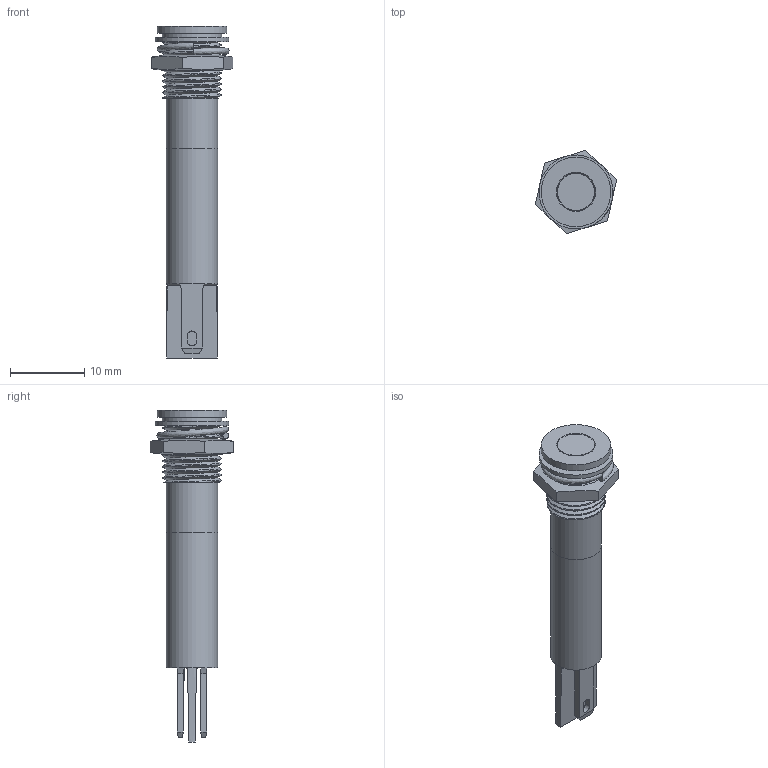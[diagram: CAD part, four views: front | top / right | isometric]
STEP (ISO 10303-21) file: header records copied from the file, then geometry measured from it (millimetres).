
FILE_DESCRIPTION( ( 'Unknown' ), '1' );
FILE_NAME( 'D:/My Documents/Q series 3D files/Q8F1CXXR.stp', 'Unknown', ( 'Unknown' ), ( 'Unknown' ), 'PSStep 15.0.49', 'Unknown', ' ' );
FILE_SCHEMA( ( 'AUTOMOTIVE_DESIGN { 1 0 10303 214 1 1 1 1 }' ) );
Length unit declared in the file: millimetre
Products named in the file (9): Assem1; 14-0135-1; 12-0016; 12-0016-oa0; 21-0026; 13-0036; 34-0066; 5mmLED-flat; 26-0048
Assembly tree (8 placements, depth 2):
  Assem1
    14-0135-1
    12-0016
    12-0016-oa0
    21-0026
    13-0036
    34-0066
    5mmLED-flat
    26-0048
Bounding box: 11.02 x 11.27 x 44.85 mm (x, y, z)
Volume: 1214.6 mm3; surface area: 2942 mm2
Topology: 8 solids, 8 shells, 204 faces, 526 edges, 348 vertices
Faces by surface type: plane 134, cylinder 54, cone 8, bspline 8
Full cylindrical faces by diameter (mm): 4.75 x1, 4.95 x2, 5 x1, 5.1 x1, 5.9 x1, 6 x1, 6.9 x2, 7.8 x1, 8 x1, 9.4 x1, 10 x1
Entity records: 17780 total; most frequent: CARTESIAN_POINT 11123, ORIENTED_EDGE 1002, DIRECTION 981, EDGE_CURVE 501, VERTEX_POINT 341, AXIS2_PLACEMENT_3D 328, LINE 325, VECTOR 325
